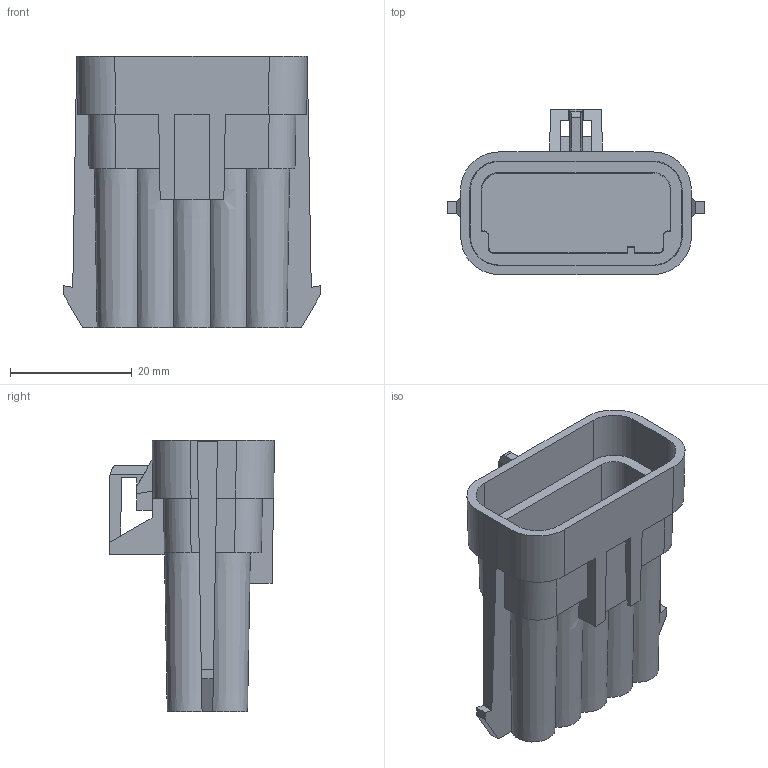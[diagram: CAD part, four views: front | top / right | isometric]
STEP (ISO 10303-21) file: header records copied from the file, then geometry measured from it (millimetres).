
FILE_DESCRIPTION(/* description */ (''),/* implementation_level */ '2;1');
FILE_NAME(/* name */ '12045808-ENV11_06-CONN.stp',/* time_stamp */ '2021-09-06T13:34:48+05:00',/* author */ (''),/* organization */ (''),/* preprocessor_version */ 'ST-DEVELOPER v16',/* originating_system */ 'SIEMENS PLM Software NX 11.0',/* authorisation */ '');
FILE_SCHEMA (('AP203_CONFIGURATION_CONTROLLED_3D_DESIGN_OF_MECHANICAL_PARTS_AND_ASSEMBLIES_MIM_LF { 1 0 10303 403 2 1 2}'));
Length unit declared in the file: millimetre
Products named in the file (1): hjcv19D8AACDzxex
Bounding box: 42.19 x 27.14 x 44.6 mm (x, y, z)
Volume: 14922.5 mm3; surface area: 8287.4 mm2
Topology: 1 solids, 1 shells, 133 faces, 391 edges, 258 vertices
Faces by surface type: plane 103, cylinder 20, cone 10
Entity records: 4521 total; most frequent: CARTESIAN_POINT 843, ORIENTED_EDGE 782, DIRECTION 707, EDGE_CURVE 391, LINE 307, VECTOR 307, VERTEX_POINT 258, AXIS2_PLACEMENT_3D 200
